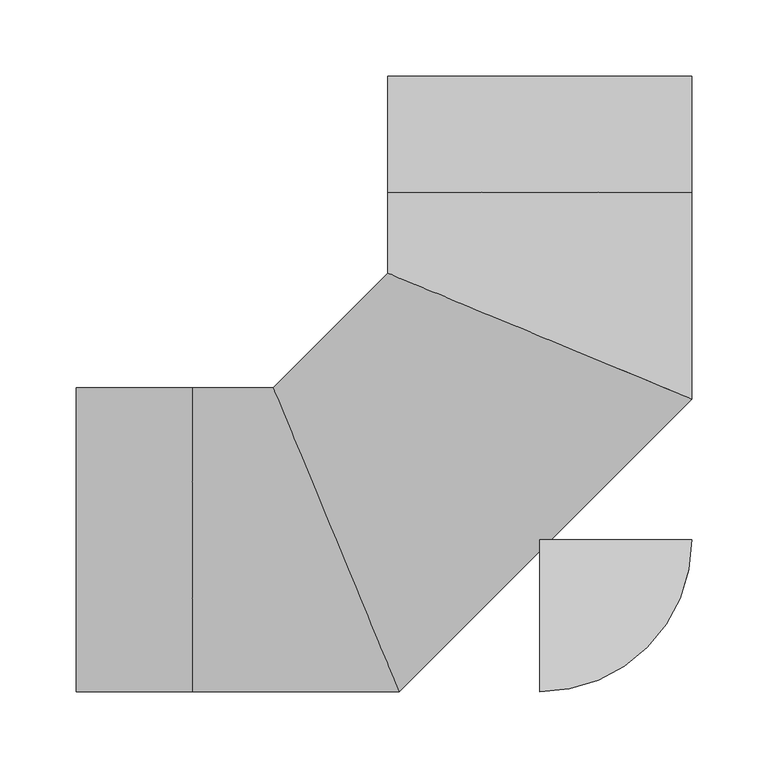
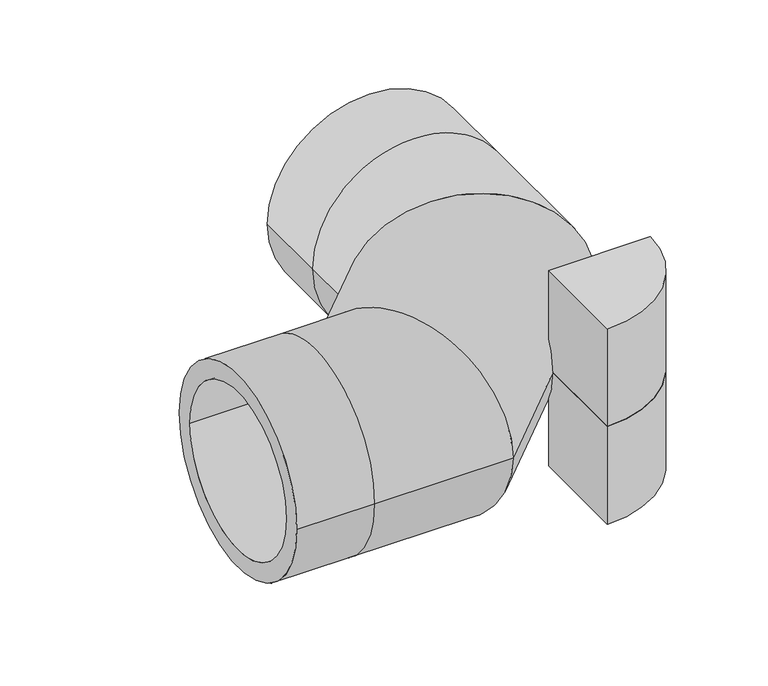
"""IFC4 building model written with IfcOpenShell, lengths in millimetres: pipe fitting geometry, Aquatherm - Elbow Green BW Segmented : SDR 11 NON-FASER."""

from ifc_helpers import new_model, si_unit, point, frame, origin, origin_with_axes, origin_2d, place, context, project, spatial, polyline, circle_curve, ellipse_curve, trimmed, segment, composite_curve, outline, extrude, source, transform, mapped, element, save
from ifc_brep_helpers import plane_surface, cylinder_surface, revolved_surface, advanced_brep


def pipe_fitting_c9665a6c(model_context):
    return source(origin(), model_context, "Body", "SolidModel", [
        extrude(outline(composite_curve([segment(polyline([(0.0, -99.949), (0.0, 0.0), (99.949, 0.0)]), True, "CONTINUOUS"), segment(trimmed(circle_curve(origin_2d(), 99.949), [point((99.949, 0.0))], [point((0.0, -99.949))], False, "CARTESIAN"), True, "CONTINUOUS")], self_intersect=False)), frame((0.0, 0.0, -101.6), z_axis=(0.0, 0.0, 1.0), x_axis=(1.0, 0.0, 0.0)), (0.0, 0.0, 1.0), 101.6),
        extrude(outline(composite_curve([segment(trimmed(circle_curve(origin_2d(), 99.949), [point((99.949, 0.0))], [point((0.0, -99.949))], False, "CARTESIAN"), True, "CONTINUOUS"), segment(polyline([(0.0, -99.949), (0.0, 0.0), (99.949, 0.0)]), True, "CONTINUOUS")], self_intersect=False)), origin_with_axes(), (0.0, 0.0, 1.0), 101.6),
        advanced_brep(
        [(-304.8, -99.949, 0.0), (-304.8, 99.949, 0.0), (-304.8, -81.7764545, 0.0), (-304.8, 81.7764545, 0.0), (99.949, 304.8, 0.0), (-99.949, 304.8, 0.0), (81.7764545, 304.8, 0.0), (-81.7764545, 304.8, 0.0), (-228.6, -99.949, 0.0), (-228.6, 99.949, 0.0), (-228.6, -81.7764545, 0.0), (-228.6, 81.7764545, 0.0), (-92.5105483, -99.949, 0.0), (-175.311011, 99.949, 0.0), (-100.0378631, -81.7764545, 0.0), (-167.7836962, 81.7764545, 0.0), (99.949, 92.5105483, 0.0), (-99.949, 175.311011, 0.0), (81.7764545, 100.0378631, 0.0), (-81.7764545, 167.7836962, 0.0), (-99.949, 228.6, 0.0), (99.949, 228.6, 0.0), (-81.7764545, 228.6, 0.0), (81.7764545, 228.6, 0.0)],
        [
            (0, 1, circle_curve(frame((-304.8, 0.0, 0.0), z_axis=(-1.0, 0.0, 0.0), x_axis=(0.0, 1.0, 0.0)), 99.949)),
            (1, 0, circle_curve(frame((-304.8, 0.0, 0.0), z_axis=(-1.0, 0.0, 0.0), x_axis=(0.0, 1.0, 0.0)), 99.949)),
            (2, 3, circle_curve(frame((-304.8, 0.0, 0.0), z_axis=(1.0, 0.0, 0.0), x_axis=(0.0, 1.0, 0.0)), 81.7764545)),
            (3, 2, circle_curve(frame((-304.8, 0.0, 0.0), z_axis=(1.0, 0.0, 0.0), x_axis=(0.0, 1.0, 0.0)), 81.7764545)),
            (4, 5, circle_curve(frame((0.0, 304.8, 0.0), z_axis=(0.0, 1.0, 0.0), x_axis=(-1.0, 0.0, 0.0)), 99.949)),
            (5, 4, circle_curve(frame((0.0, 304.8, 0.0), z_axis=(0.0, 1.0, 0.0), x_axis=(-1.0, 0.0, 0.0)), 99.949)),
            (6, 7, circle_curve(frame((0.0, 304.8, 0.0), z_axis=(0.0, -1.0, 0.0), x_axis=(-1.0, 0.0, 0.0)), 81.7764545)),
            (7, 6, circle_curve(frame((0.0, 304.8, 0.0), z_axis=(0.0, -1.0, 0.0), x_axis=(-1.0, 0.0, 0.0)), 81.7764545)),
            (0, 8),
            (8, 9, circle_curve(frame((-228.6, 0.0, 0.0), z_axis=(-1.0, 0.0, 0.0), x_axis=(0.0, 1.0, 0.0)), 99.949)),
            (9, 1),
            (9, 8, circle_curve(frame((-228.6, 0.0, 0.0), z_axis=(-1.0, 0.0, 0.0), x_axis=(0.0, 1.0, 0.0)), 99.949)),
            (2, 10),
            (10, 11, circle_curve(frame((-228.6, 0.0, 0.0), z_axis=(1.0, 0.0, 0.0), x_axis=(0.0, 1.0, 0.0)), 81.7764545)),
            (11, 3),
            (11, 10, circle_curve(frame((-228.6, 0.0, 0.0), z_axis=(1.0, 0.0, 0.0), x_axis=(0.0, 1.0, 0.0)), 81.7764545)),
            (8, 12),
            (12, 13, ellipse_curve(frame((-133.9107796, 0.0, 0.0), z_axis=(-0.9238795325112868, -0.3826834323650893, 0.0), x_axis=(-0.3826834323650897, 0.9238795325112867, 0.0)), 108.184018, 99.949)),
            (13, 9),
            (13, 12, ellipse_curve(frame((-133.9107796, 0.0, 0.0), z_axis=(-0.9238795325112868, -0.3826834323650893, 0.0), x_axis=(-0.3826834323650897, 0.9238795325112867, 0.0)), 108.184018, 99.949)),
            (10, 14),
            (14, 15, ellipse_curve(frame((-133.9107796, 0.0, 0.0), z_axis=(0.9238795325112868, 0.3826834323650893, 0.0), x_axis=(0.3826834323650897, -0.9238795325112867, 0.0)), 88.5141966, 81.7764545)),
            (15, 11),
            (15, 14, ellipse_curve(frame((-133.9107796, 0.0, 0.0), z_axis=(0.9238795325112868, 0.3826834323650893, 0.0), x_axis=(0.3826834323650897, -0.9238795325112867, 0.0)), 88.5141966, 81.7764545)),
            (12, 16),
            (16, 17, ellipse_curve(frame((0.0, 133.9107796, 0.0), z_axis=(-0.382683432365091, -0.9238795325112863, 0.0), x_axis=(-0.9238795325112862, 0.382683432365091, 0.0)), 108.184018, 99.949)),
            (17, 13),
            (17, 16, ellipse_curve(frame((0.0, 133.9107796, 0.0), z_axis=(-0.382683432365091, -0.9238795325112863, 0.0), x_axis=(-0.9238795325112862, 0.382683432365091, 0.0)), 108.184018, 99.949)),
            (14, 18),
            (18, 19, ellipse_curve(frame((0.0, 133.9107796, 0.0), z_axis=(0.382683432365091, 0.9238795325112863, 0.0), x_axis=(0.9238795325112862, -0.382683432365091, 0.0)), 88.5141966, 81.7764545)),
            (19, 15),
            (19, 18, ellipse_curve(frame((0.0, 133.9107796, 0.0), z_axis=(0.382683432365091, 0.9238795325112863, 0.0), x_axis=(0.9238795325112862, -0.382683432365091, 0.0)), 88.5141966, 81.7764545)),
            (20, 21, circle_curve(frame((0.0, 228.6, 0.0), z_axis=(0.0, 1.0, 0.0), x_axis=(-1.0, 0.0, 0.0)), 99.949)),
            (21, 4),
            (5, 20),
            (21, 20, circle_curve(frame((0.0, 228.6, 0.0), z_axis=(0.0, 1.0, 0.0), x_axis=(-1.0, 0.0, 0.0)), 99.949)),
            (22, 23, circle_curve(frame((0.0, 228.6, 0.0), z_axis=(0.0, -1.0, 0.0), x_axis=(-1.0, 0.0, 0.0)), 81.7764545)),
            (23, 6),
            (7, 22),
            (23, 22, circle_curve(frame((0.0, 228.6, 0.0), z_axis=(0.0, -1.0, 0.0), x_axis=(-1.0, 0.0, 0.0)), 81.7764545)),
            (16, 21),
            (20, 17),
            (18, 23),
            (22, 19),
        ],
        [
            plane_surface(frame((-304.8, 0.0, 0.0), z_axis=(-1.0, 0.0, 0.0), x_axis=(0.0, 0.0, 1.0))),
            plane_surface(frame((0.0, 304.8, 0.0), z_axis=(0.0, 1.0, 0.0), x_axis=(0.0, 0.0, 1.0))),
            cylinder_surface(frame((-304.8, 0.0, 0.0), z_axis=(-1.0, 0.0, 0.0), x_axis=(0.0, 1.0, 0.0)), 99.949),
            revolved_surface(polyline([(-228.6, 81.7764545, 0.0), (-304.8, 81.7764545, 0.0)]), (-304.8, 0.0, 0.0), (1.0, 0.0, 0.0)),
            cylinder_surface(frame((-228.6, 0.0, 0.0), z_axis=(-1.0, 0.0, 0.0), x_axis=(0.0, 1.0, 0.0)), 99.949),
            revolved_surface(polyline([(-100.03786303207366, 81.7764545, 0.0), (-228.6, 81.7764545, 0.0)]), (-228.6, 0.0, 0.0), (1.0, 0.0, 0.0)),
            cylinder_surface(frame((-133.9107796, 0.0, 0.0), z_axis=(-0.7071067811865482, -0.7071067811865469, 0.0), x_axis=(-0.7071067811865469, 0.7071067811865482, 0.0)), 99.949),
            revolved_surface(polyline([(-33.87291651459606, 215.68723412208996, 0.0), (-215.68723412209, 33.8729165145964, 0.0)]), (-133.9107796, 0.0, 0.0), (0.7071067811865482, 0.7071067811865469, 0.0)),
            cylinder_surface(frame((0.0, 228.6, 0.0), z_axis=(0.0, -1.0, 0.0), x_axis=(-1.0, 0.0, 0.0)), 99.949),
            revolved_surface(polyline([(-81.7764545, 304.8, 0.0), (-81.7764545, 228.6, 0.0)]), (0.0, 228.6, 0.0), (0.0, 1.0, 0.0)),
            cylinder_surface(frame((0.0, 133.9107796, 0.0), z_axis=(0.0, -1.0, 0.0), x_axis=(-1.0, 0.0, 0.0)), 99.949),
            revolved_surface(polyline([(-81.7764545, 228.6, 0.0), (-81.7764545, 100.03786303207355, 0.0)]), (0.0, 133.9107796, 0.0), (0.0, 1.0, 0.0)),
        ],
        [
            (0, [[1, 2], [3, 4]]),
            (1, [[5, 6], [7, 8]]),
            (2, [[-1, 9, 10, 11]]),
            (2, [[-2, -11, 12, -9]]),
            (3, [[-3, 13, 14, 15]]),
            (3, [[-4, -15, 16, -13]]),
            (4, [[-10, 17, 18, 19]]),
            (4, [[-12, -19, 20, -17]]),
            (5, [[-14, 21, 22, 23]]),
            (5, [[-16, -23, 24, -21]]),
            (6, [[-18, 25, 26, 27]]),
            (6, [[-20, -27, 28, -25]]),
            (7, [[-22, 29, 30, 31]]),
            (7, [[-24, -31, 32, -29]]),
            (8, [[33, 34, -6, 35]]),
            (8, [[36, -35, -5, -34]]),
            (9, [[37, 38, -8, 39]]),
            (9, [[40, -39, -7, -38]]),
            (10, [[-26, 41, -33, 42]]),
            (10, [[-28, -42, -36, -41]]),
            (11, [[-30, 43, -37, 44]]),
            (11, [[-32, -44, -40, -43]]),
        ],
    ),
    ])


if __name__ == "__main__":
    model = new_model("IFC4")
    model_context = context("Model", 3, world=origin())
    ifc_project = project(units=[si_unit("LENGTHUNIT", "METRE", prefix="MILLI")], contexts=[model_context])
    site = spatial("IfcSite", under=ifc_project)
    building = spatial("IfcBuilding", under=site)
    placement = place(None, origin())
    pipe_fitting_shape = pipe_fitting_c9665a6c(model_context)
    element("IfcPipeFitting", 1, ObjectType="Aquatherm - Elbow Green BW Segmented : SDR 11 NON-FASER", at=placement, inside=building, context=model_context, shape_type="MappedRepresentation", body=[
        mapped(pipe_fitting_shape, transform((0.0, 0.0, 0.0), x_axis=(1.0, 0.0, 0.0), y_axis=(0.0, 1.0, 0.0), z_axis=(0.0, 0.0, 1.0))),
    ])
    save(model, "model.ifc")
